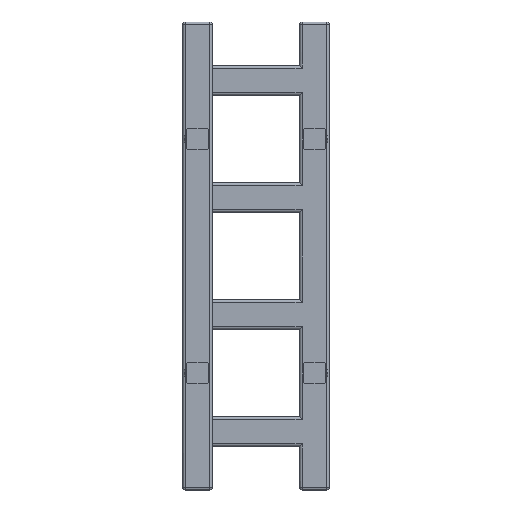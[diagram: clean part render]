
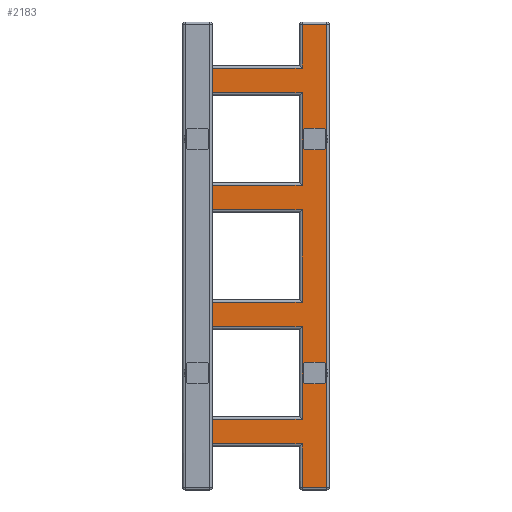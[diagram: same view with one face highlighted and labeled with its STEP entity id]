
A CAD part, front view. The second image highlights one B-rep face of the part: STEP entity #2183.
In plain terms, the highlighted planar face has unit normal (0, -1, 0).
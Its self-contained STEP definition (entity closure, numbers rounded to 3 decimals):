
#412=CARTESIAN_POINT('',(63.,-15.,63.));
#413=VERTEX_POINT('',#412);
#423=CARTESIAN_POINT('',(-60.0,-15.,63.));
#424=VERTEX_POINT('',#423);
#425=CARTESIAN_POINT('',(-60.0,-15.,63.));
#426=DIRECTION('',(1.0,0.0,0.0));
#427=VECTOR('',#426,123.);
#428=LINE('',#425,#427);
#429=EDGE_CURVE('',#424,#413,#428,.T.);
#520=CARTESIAN_POINT('',(63.,-15.,97.));
#521=VERTEX_POINT('',#520);
#537=CARTESIAN_POINT('',(-60.0,-15.,97.));
#538=VERTEX_POINT('',#537);
#546=CARTESIAN_POINT('',(-60.0,-15.,97.));
#547=DIRECTION('',(1.0,0.0,0.0));
#548=VECTOR('',#547,123.);
#549=LINE('',#546,#548);
#550=EDGE_CURVE('',#538,#521,#549,.T.);
#631=CARTESIAN_POINT('',(-60.0,-15.,63.));
#632=DIRECTION('',(0.0,0.0,1.0));
#633=VECTOR('',#632,34.);
#634=LINE('',#631,#633);
#635=EDGE_CURVE('',#424,#538,#634,.T.);
#668=CARTESIAN_POINT('',(63.,-15.,223.));
#669=VERTEX_POINT('',#668);
#679=CARTESIAN_POINT('',(-60.0,-15.,223.));
#680=VERTEX_POINT('',#679);
#681=CARTESIAN_POINT('',(-60.0,-15.,223.));
#682=DIRECTION('',(1.0,0.0,0.0));
#683=VECTOR('',#682,123.);
#684=LINE('',#681,#683);
#685=EDGE_CURVE('',#680,#669,#684,.T.);
#776=CARTESIAN_POINT('',(63.,-15.,257.));
#777=VERTEX_POINT('',#776);
#793=CARTESIAN_POINT('',(-60.0,-15.,257.));
#794=VERTEX_POINT('',#793);
#802=CARTESIAN_POINT('',(-60.0,-15.,257.));
#803=DIRECTION('',(1.0,0.0,0.0));
#804=VECTOR('',#803,123.);
#805=LINE('',#802,#804);
#806=EDGE_CURVE('',#794,#777,#805,.T.);
#887=CARTESIAN_POINT('',(-60.0,-15.,223.));
#888=DIRECTION('',(0.0,0.0,1.0));
#889=VECTOR('',#888,34.);
#890=LINE('',#887,#889);
#891=EDGE_CURVE('',#680,#794,#890,.T.);
#924=CARTESIAN_POINT('',(63.,-15.,383.));
#925=VERTEX_POINT('',#924);
#935=CARTESIAN_POINT('',(-60.0,-15.,383.));
#936=VERTEX_POINT('',#935);
#937=CARTESIAN_POINT('',(-60.0,-15.,383.));
#938=DIRECTION('',(1.0,0.0,0.0));
#939=VECTOR('',#938,123.);
#940=LINE('',#937,#939);
#941=EDGE_CURVE('',#936,#925,#940,.T.);
#1032=CARTESIAN_POINT('',(63.,-15.,417.));
#1033=VERTEX_POINT('',#1032);
#1049=CARTESIAN_POINT('',(-60.0,-15.,417.));
#1050=VERTEX_POINT('',#1049);
#1058=CARTESIAN_POINT('',(-60.0,-15.,417.));
#1059=DIRECTION('',(1.0,0.0,0.0));
#1060=VECTOR('',#1059,123.);
#1061=LINE('',#1058,#1060);
#1062=EDGE_CURVE('',#1050,#1033,#1061,.T.);
#1143=CARTESIAN_POINT('',(-60.0,-15.,383.));
#1144=DIRECTION('',(0.0,0.0,1.0));
#1145=VECTOR('',#1144,34.0);
#1146=LINE('',#1143,#1145);
#1147=EDGE_CURVE('',#936,#1050,#1146,.T.);
#1182=CARTESIAN_POINT('',(63.,-15.,577.));
#1183=VERTEX_POINT('',#1182);
#1199=CARTESIAN_POINT('',(-60.0,-15.,577.));
#1200=VERTEX_POINT('',#1199);
#1208=CARTESIAN_POINT('',(-60.0,-15.,577.));
#1209=DIRECTION('',(1.0,0.0,0.0));
#1210=VECTOR('',#1209,123.);
#1211=LINE('',#1208,#1210);
#1212=EDGE_CURVE('',#1200,#1183,#1211,.T.);
#1286=CARTESIAN_POINT('',(63.,-15.,543.));
#1287=VERTEX_POINT('',#1286);
#1297=CARTESIAN_POINT('',(-60.0,-15.,543.));
#1298=VERTEX_POINT('',#1297);
#1299=CARTESIAN_POINT('',(-60.0,-15.,543.));
#1300=DIRECTION('',(1.0,0.0,0.0));
#1301=VECTOR('',#1300,123.);
#1302=LINE('',#1299,#1301);
#1303=EDGE_CURVE('',#1298,#1287,#1302,.T.);
#1399=CARTESIAN_POINT('',(-60.0,-15.,543.));
#1400=DIRECTION('',(0.0,0.0,1.0));
#1401=VECTOR('',#1400,34.0);
#1402=LINE('',#1399,#1401);
#1403=EDGE_CURVE('',#1298,#1200,#1402,.T.);
#2059=CARTESIAN_POINT('',(97.,-15.0,637.0));
#2060=VERTEX_POINT('',#2059);
#2068=CARTESIAN_POINT('',(97.,-15.,3.0));
#2069=VERTEX_POINT('',#2068);
#2070=CARTESIAN_POINT('',(97.,-15.0,637.0));
#2071=DIRECTION('',(0.0,0.0,-1.0));
#2072=VECTOR('',#2071,634.0);
#2073=LINE('',#2070,#2072);
#2074=EDGE_CURVE('',#2060,#2069,#2073,.T.);
#2117=CARTESIAN_POINT('',(100.,-15.0,0.0));
#2118=DIRECTION('',(0.0,-1.0,0.0));
#2119=DIRECTION('',(0.0,0.0,-1.0));
#2120=AXIS2_PLACEMENT_3D('',#2117,#2118,#2119);
#2121=PLANE('',#2120);
#2122=CARTESIAN_POINT('',(63.,-15.,3.0));
#2123=VERTEX_POINT('',#2122);
#2124=CARTESIAN_POINT('',(63.,-15.,3.0));
#2125=DIRECTION('',(0.0,0.0,1.0));
#2126=VECTOR('',#2125,60.);
#2127=LINE('',#2124,#2126);
#2128=EDGE_CURVE('',#2123,#413,#2127,.T.);
#2129=ORIENTED_EDGE('',*,*,#2128,.F.);
#2130=CARTESIAN_POINT('',(97.,-15.,3.0));
#2131=DIRECTION('',(-1.0,0.0,0.0));
#2132=VECTOR('',#2131,34.);
#2133=LINE('',#2130,#2132);
#2134=EDGE_CURVE('',#2069,#2123,#2133,.T.);
#2135=ORIENTED_EDGE('',*,*,#2134,.F.);
#2136=ORIENTED_EDGE('',*,*,#2074,.F.);
#2137=CARTESIAN_POINT('',(63.,-15.,637.0));
#2138=VERTEX_POINT('',#2137);
#2139=CARTESIAN_POINT('',(63.,-15.,637.0));
#2140=DIRECTION('',(1.0,0.0,0.0));
#2141=VECTOR('',#2140,34.);
#2142=LINE('',#2139,#2141);
#2143=EDGE_CURVE('',#2138,#2060,#2142,.T.);
#2144=ORIENTED_EDGE('',*,*,#2143,.F.);
#2145=CARTESIAN_POINT('',(63.,-15.,577.));
#2146=DIRECTION('',(0.0,0.0,1.0));
#2147=VECTOR('',#2146,60.);
#2148=LINE('',#2145,#2147);
#2149=EDGE_CURVE('',#1183,#2138,#2148,.T.);
#2150=ORIENTED_EDGE('',*,*,#2149,.F.);
#2151=ORIENTED_EDGE('',*,*,#1212,.F.);
#2152=ORIENTED_EDGE('',*,*,#1403,.F.);
#2153=ORIENTED_EDGE('',*,*,#1303,.T.);
#2154=CARTESIAN_POINT('',(63.,-15.,417.));
#2155=DIRECTION('',(0.0,0.0,1.0));
#2156=VECTOR('',#2155,126.);
#2157=LINE('',#2154,#2156);
#2158=EDGE_CURVE('',#1033,#1287,#2157,.T.);
#2159=ORIENTED_EDGE('',*,*,#2158,.F.);
#2160=ORIENTED_EDGE('',*,*,#1062,.F.);
#2161=ORIENTED_EDGE('',*,*,#1147,.F.);
#2162=ORIENTED_EDGE('',*,*,#941,.T.);
#2163=CARTESIAN_POINT('',(63.,-15.,257.));
#2164=DIRECTION('',(0.0,0.0,1.0));
#2165=VECTOR('',#2164,126.);
#2166=LINE('',#2163,#2165);
#2167=EDGE_CURVE('',#777,#925,#2166,.T.);
#2168=ORIENTED_EDGE('',*,*,#2167,.F.);
#2169=ORIENTED_EDGE('',*,*,#806,.F.);
#2170=ORIENTED_EDGE('',*,*,#891,.F.);
#2171=ORIENTED_EDGE('',*,*,#685,.T.);
#2172=CARTESIAN_POINT('',(63.,-15.,97.));
#2173=DIRECTION('',(0.0,0.0,1.0));
#2174=VECTOR('',#2173,126.);
#2175=LINE('',#2172,#2174);
#2176=EDGE_CURVE('',#521,#669,#2175,.T.);
#2177=ORIENTED_EDGE('',*,*,#2176,.F.);
#2178=ORIENTED_EDGE('',*,*,#550,.F.);
#2179=ORIENTED_EDGE('',*,*,#635,.F.);
#2180=ORIENTED_EDGE('',*,*,#429,.T.);
#2181=EDGE_LOOP('',(#2129,#2135,#2136,#2144,#2150,#2151,#2152,#2153,#2159,#2160,#2161,#2162,#2168,#2169,#2170,#2171,#2177,#2178,#2179,#2180));
#2182=FACE_OUTER_BOUND('',#2181,.T.);
#2183=ADVANCED_FACE('',(#2182),#2121,.T.);
